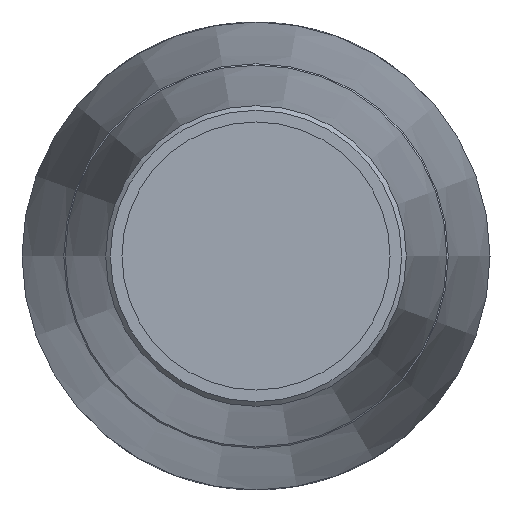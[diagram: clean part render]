
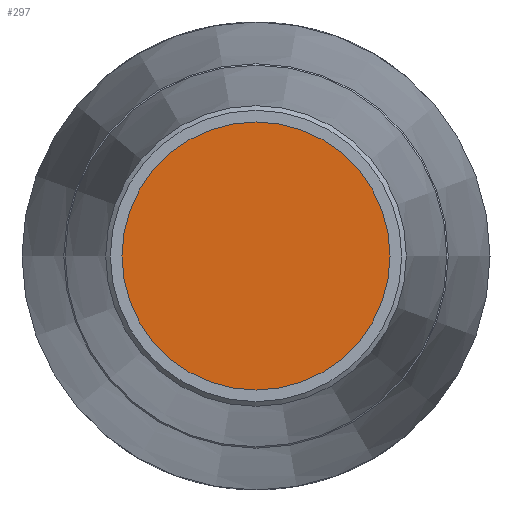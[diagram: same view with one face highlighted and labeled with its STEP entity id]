
A CAD part, left-side view. The second image highlights one B-rep face of the part: STEP entity #297.
In plain terms, the highlighted planar face has unit normal (-1, 0, 0).
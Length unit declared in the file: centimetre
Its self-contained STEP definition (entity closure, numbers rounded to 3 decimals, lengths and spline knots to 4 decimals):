
#19=PLANE('',#336);
#82=FACE_OUTER_BOUND('',#120,.T.);
#120=EDGE_LOOP('',(#244));
#136=CIRCLE('',#335,1.575);
#160=VERTEX_POINT('',#608);
#188=EDGE_CURVE('',#160,#160,#136,.T.);
#244=ORIENTED_EDGE('',*,*,#188,.T.);
#297=ADVANCED_FACE('',(#82),#19,.T.);
#335=AXIS2_PLACEMENT_3D('',#609,#417,#418);
#336=AXIS2_PLACEMENT_3D('',#610,#419,#420);
#417=DIRECTION('center_axis',(-1.,0.,0.));
#418=DIRECTION('ref_axis',(0.,0.,-1.));
#419=DIRECTION('center_axis',(-1.,0.,0.));
#420=DIRECTION('ref_axis',(0.,0.,-1.));
#608=CARTESIAN_POINT('',(-16.5,1.575,0.));
#609=CARTESIAN_POINT('Origin',(-16.5,0.,0.));
#610=CARTESIAN_POINT('Origin',(-16.5,0.,0.));
